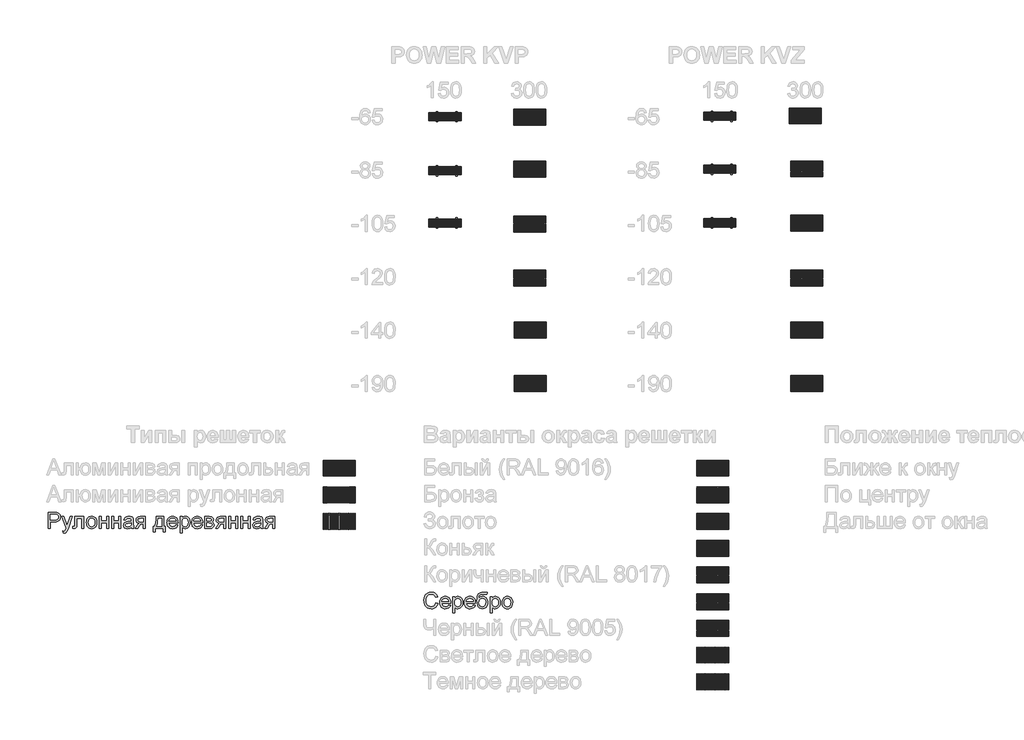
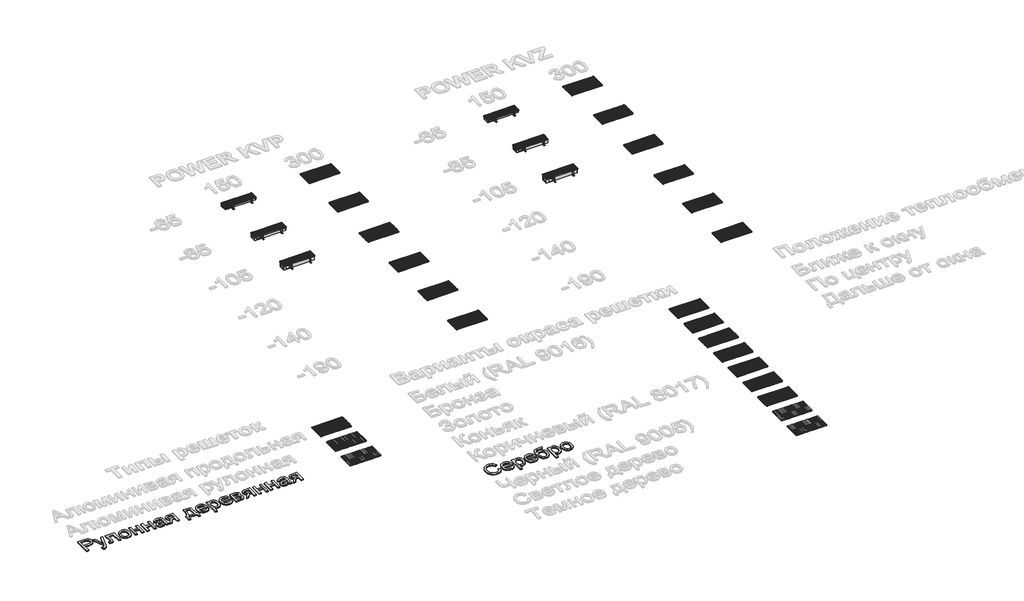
# One storey, part 1 of 10: 38 proxies.
"""IFC4 building model written with IfcOpenShell, lengths in millimetres."""

from ifc_helpers import new_model, si_unit, origin, origin_with_axes, place, context, project, spatial, polyline, outline, extrude, transform, mapped, element, save
from components import mechanical_equipment_09c1ba0b, mechanical_equipment_2d79d91e, mechanical_equipment_2ccabaea, mechanical_equipment_f10bf6e6, mechanical_equipment_841a4795, mechanical_equipment_14a43337, mechanical_equipment_002f7a25, kvp_150_65_a3dba4b2, kvp_150_85_47bef37a, kvz_150_65_052aeace, kvz_150_85_427afdff

model = new_model("IFC4")

# Units and contexts
model_context = context("Model", 3, world=origin())
ifc_project = project(units=[si_unit("LENGTHUNIT", "METRE", prefix="MILLI")], contexts=[model_context])

# Site, building, storey
site = spatial("IfcSite", under=ifc_project)
building = spatial("IfcBuilding", under=site)
storey = spatial("IfcBuildingStorey", under=building, Name="Уровень 1", Elevation=0.0)

# Proxies
placement = place(None, origin())
mechanical_equipment_shape = mechanical_equipment_09c1ba0b(model_context)
element("IfcBuildingElementProxy", 1, Name="TECHNO_Конвектор встраиваемый_Power_KVZ_150_65-85-105 : KVZ 150-105", ObjectType="TECHNO_Конвектор встраиваемый_Power_KVZ_150_65-85-105 : KVZ 150-105", at=placement, inside=storey, context=model_context, shape_type="MappedRepresentation", body=[
    mapped(mechanical_equipment_shape, transform((12325.1930795, -13794.0229763, 0.0), x_axis=(1.0, 0.0, 0.0), y_axis=(0.0, 1.0, 0.0), z_axis=(0.0, 0.0, 1.0))),
])
mechanical_equipment_2_shape = mechanical_equipment_2d79d91e(model_context)
element("IfcBuildingElementProxy", 2, Name="♦ : РАП_Алюминиевая продольная/ Белый RAL 9016", ObjectType="♦ : РАП_Алюминиевая продольная/ Белый RAL 9016", at=placement, inside=storey, context=model_context, shape_type="MappedRepresentation", body=[
    mapped(mechanical_equipment_2_shape, transform((7184.7875436, -11807.0954445, 0.0), x_axis=(1.0, 0.0, 0.0), y_axis=(0.0, 1.0, 0.0), z_axis=(0.0, 0.0, 1.0))),
])
element("IfcBuildingElementProxy", 3, Name="♦ : РАП_Алюминиевая продольная/ Белый RAL 9016", ObjectType="♦ : РАП_Алюминиевая продольная/ Белый RAL 9016", at=placement, inside=storey, context=model_context, shape_type="MappedRepresentation", body=[
    mapped(mechanical_equipment_2_shape, transform((7184.7875436, -12820.0590808, 0.0), x_axis=(1.0, 0.0, 0.0), y_axis=(0.0, 1.0, 0.0), z_axis=(0.0, 0.0, 1.0))),
])
element("IfcBuildingElementProxy", 4, Name="♦ : РАП_Алюминиевая продольная/ Белый RAL 9016", ObjectType="♦ : РАП_Алюминиевая продольная/ Белый RAL 9016", at=placement, inside=storey, context=model_context, shape_type="MappedRepresentation", body=[
    mapped(mechanical_equipment_2_shape, transform((7184.7875436, -13794.1318081, 0.0), x_axis=(1.0, 0.0, 0.0), y_axis=(0.0, 1.0, 0.0), z_axis=(0.0, 0.0, 1.0))),
])
element("IfcBuildingElementProxy", 5, Name="♦ : РАП_Алюминиевая продольная/ Белый RAL 9016", ObjectType="♦ : РАП_Алюминиевая продольная/ Белый RAL 9016", at=placement, inside=storey, context=model_context, shape_type="MappedRepresentation", body=[
    mapped(mechanical_equipment_2_shape, transform((12325.1930795, -11799.0229763, 0.0), x_axis=(1.0, 0.0, 0.0), y_axis=(0.0, 1.0, 0.0), z_axis=(0.0, 0.0, 1.0))),
])
element("IfcBuildingElementProxy", 6, Name="♦ : РАП_Алюминиевая продольная/ Белый RAL 9016", ObjectType="♦ : РАП_Алюминиевая продольная/ Белый RAL 9016", at=placement, inside=storey, context=model_context, shape_type="MappedRepresentation", body=[
    mapped(mechanical_equipment_2_shape, transform((12325.1930795, -12790.2794551, 0.0), x_axis=(1.0, 0.0, 0.0), y_axis=(0.0, 1.0, 0.0), z_axis=(0.0, 0.0, 1.0))),
])
element("IfcBuildingElementProxy", 7, Name="♦ : РАП_Алюминиевая продольная/ Белый RAL 9016", ObjectType="♦ : РАП_Алюминиевая продольная/ Белый RAL 9016", at=placement, inside=storey, context=model_context, shape_type="MappedRepresentation", body=[
    mapped(mechanical_equipment_2_shape, transform((12325.1930795, -13794.0229763, 0.0), x_axis=(1.0, 0.0, 0.0), y_axis=(0.0, 1.0, 0.0), z_axis=(0.0, 0.0, 1.0))),
])
mechanical_equipment_3_shape = mechanical_equipment_2ccabaea(model_context)
element("IfcBuildingElementProxy", 8, Name="♦ : РАП_Алюминиевая продольная/ Белый RAL 9016", ObjectType="♦ : РАП_Алюминиевая продольная/ Белый RAL 9016", at=placement, inside=storey, context=model_context, shape_type="MappedRepresentation", body=[
    mapped(mechanical_equipment_3_shape, transform((8773.8485084, -11812.8052929, 0.0), x_axis=(1.0, 0.0, 0.0), y_axis=(0.0, 1.0, 0.0), z_axis=(0.0, 0.0, 1.0))),
])
element("IfcBuildingElementProxy", 9, Name="♦ : РАП_Алюминиевая продольная/ Белый RAL 9016", ObjectType="♦ : РАП_Алюминиевая продольная/ Белый RAL 9016", at=placement, inside=storey, context=model_context, shape_type="MappedRepresentation", body=[
    mapped(mechanical_equipment_3_shape, transform((13923.129382, -11792.5411582, 0.0), x_axis=(1.0, 0.0, 0.0), y_axis=(0.0, 1.0, 0.0), z_axis=(0.0, 0.0, 1.0))),
])
element("IfcBuildingElementProxy", 10, Name="♦ : РАП_Алюминиевая продольная/ Белый RAL 9016", ObjectType="♦ : РАП_Алюминиевая продольная/ Белый RAL 9016", at=placement, inside=storey, context=model_context, shape_type="MappedRepresentation", body=[
    mapped(mechanical_equipment_3_shape, transform((8776.1530838, -15803.1136263, 0.0), x_axis=(1.0, 0.0, 0.0), y_axis=(0.0, 1.0, 0.0), z_axis=(0.0, 0.0, 1.0))),
])
element("IfcBuildingElementProxy", 11, Name="♦ : РАП_Алюминиевая продольная/ Белый RAL 9016", ObjectType="♦ : РАП_Алюминиевая продольная/ Белый RAL 9016", at=placement, inside=storey, context=model_context, shape_type="MappedRepresentation", body=[
    mapped(mechanical_equipment_3_shape, transform((8776.1530838, -16803.1136263, 0.0), x_axis=(1.0, 0.0, 0.0), y_axis=(0.0, 1.0, 0.0), z_axis=(0.0, 0.0, 1.0))),
])
element("IfcBuildingElementProxy", 12, Name="♦ : РАП_Алюминиевая продольная/ Белый RAL 9016", ObjectType="♦ : РАП_Алюминиевая продольная/ Белый RAL 9016", at=placement, inside=storey, context=model_context, shape_type="MappedRepresentation", body=[
    mapped(mechanical_equipment_3_shape, transform((13951.2341066, -15803.1136263, 0.0), x_axis=(1.0, 0.0, 0.0), y_axis=(0.0, 1.0, 0.0), z_axis=(0.0, 0.0, 1.0))),
])
element("IfcBuildingElementProxy", 13, Name="♦ : РАП_Алюминиевая продольная/ Белый RAL 9016", ObjectType="♦ : РАП_Алюминиевая продольная/ Белый RAL 9016", at=placement, inside=storey, context=model_context, shape_type="MappedRepresentation", body=[
    mapped(mechanical_equipment_3_shape, transform((13951.2341066, -16803.0047945, 0.0), x_axis=(1.0, 0.0, 0.0), y_axis=(0.0, 1.0, 0.0), z_axis=(0.0, 0.0, 1.0))),
])
mechanical_equipment_4_shape = mechanical_equipment_f10bf6e6(model_context)
element("IfcBuildingElementProxy", 14, Name="♦ : РРА_Рулонная алюминиевая/ Белый RAL 9016", ObjectType="♦ : РРА_Рулонная алюминиевая/ Белый RAL 9016", at=placement, inside=storey, context=model_context, shape_type="MappedRepresentation", body=[
    mapped(mechanical_equipment_4_shape, transform((5205.577441, -18886.8127464, 0.0), x_axis=(1.0, 0.0, 0.0), y_axis=(0.0, 1.0, 0.0), z_axis=(0.0, 0.0, 1.0))),
])
mechanical_equipment_5_shape = mechanical_equipment_841a4795(model_context)
element("IfcBuildingElementProxy", 15, Name="♦ : РРД_Рулонная деревянная/ Светлое дерево", ObjectType="♦ : РРД_Рулонная деревянная/ Светлое дерево", at=placement, inside=storey, context=model_context, shape_type="MappedRepresentation", body=[
    mapped(mechanical_equipment_5_shape, transform((5205.577441, -19386.8127464, 0.0), x_axis=(1.0, 0.0, 0.0), y_axis=(0.0, 1.0, 0.0), z_axis=(0.0, 0.0, 1.0))),
])
element("IfcBuildingElementProxy", 16, Name="♦ : РРД_Рулонная деревянная/ Светлое дерево", ObjectType="♦ : РРД_Рулонная деревянная/ Светлое дерево", at=placement, inside=storey, context=model_context, shape_type="MappedRepresentation", body=[
    mapped(mechanical_equipment_5_shape, transform((12196.577441, -21886.8127464, 0.0), x_axis=(1.0, 0.0, 0.0), y_axis=(0.0, 1.0, 0.0), z_axis=(0.0, 0.0, 1.0))),
])
mechanical_equipment_6_shape = mechanical_equipment_14a43337(model_context)
element("IfcBuildingElementProxy", 17, Name="♦ : РАП_Алюминиевая продольная/ Бронза", ObjectType="♦ : РАП_Алюминиевая продольная/ Бронза", at=placement, inside=storey, context=model_context, shape_type="MappedRepresentation", body=[
    mapped(mechanical_equipment_6_shape, transform((12196.577441, -18886.8127464, 0.0), x_axis=(1.0, 0.0, 0.0), y_axis=(0.0, 1.0, 0.0), z_axis=(0.0, 0.0, 1.0))),
])
element("IfcBuildingElementProxy", 18, Name="♦ : РАП_Алюминиевая продольная/ Золото", ObjectType="♦ : РАП_Алюминиевая продольная/ Золото", at=placement, inside=storey, context=model_context, shape_type="MappedRepresentation", body=[
    mapped(mechanical_equipment_6_shape, transform((12196.577441, -19386.8127464, 0.0), x_axis=(1.0, 0.0, 0.0), y_axis=(0.0, 1.0, 0.0), z_axis=(0.0, 0.0, 1.0))),
])
element("IfcBuildingElementProxy", 19, Name="♦ : РАП_Алюминиевая продольная/ Коньяк", ObjectType="♦ : РАП_Алюминиевая продольная/ Коньяк", at=placement, inside=storey, context=model_context, shape_type="MappedRepresentation", body=[
    mapped(mechanical_equipment_6_shape, transform((12196.577441, -19886.8127464, 0.0), x_axis=(1.0, 0.0, 0.0), y_axis=(0.0, 1.0, 0.0), z_axis=(0.0, 0.0, 1.0))),
])
element("IfcBuildingElementProxy", 20, Name="♦ : РАП_Алюминиевая продольная/ Коричневый RAL 8017", ObjectType="♦ : РАП_Алюминиевая продольная/ Коричневый RAL 8017", at=placement, inside=storey, context=model_context, shape_type="MappedRepresentation", body=[
    mapped(mechanical_equipment_6_shape, transform((12196.577441, -20386.8127464, 0.0), x_axis=(1.0, 0.0, 0.0), y_axis=(0.0, 1.0, 0.0), z_axis=(0.0, 0.0, 1.0))),
])
element("IfcBuildingElementProxy", 21, Name="♦ : РАП_Алюминиевая продольная/ Серебро", ObjectType="♦ : РАП_Алюминиевая продольная/ Серебро", at=placement, inside=storey, context=model_context, shape_type="MappedRepresentation", body=[
    mapped(mechanical_equipment_6_shape, transform((12196.577441, -20886.8127464, 0.0), x_axis=(1.0, 0.0, 0.0), y_axis=(0.0, 1.0, 0.0), z_axis=(0.0, 0.0, 1.0))),
])
element("IfcBuildingElementProxy", 22, Name="♦ : РАП_Алюминиевая продольная/ Белый RAL 9016", ObjectType="♦ : РАП_Алюминиевая продольная/ Белый RAL 9016", at=placement, inside=storey, context=model_context, shape_type="MappedRepresentation", body=[
    mapped(mechanical_equipment_6_shape, transform((8773.8485084, -12785.9836263, 0.0), x_axis=(1.0, 0.0, 0.0), y_axis=(0.0, 1.0, 0.0), z_axis=(0.0, 0.0, 1.0))),
])
element("IfcBuildingElementProxy", 23, Name="♦ : РАП_Алюминиевая продольная/ Белый RAL 9016", ObjectType="♦ : РАП_Алюминиевая продольная/ Белый RAL 9016", at=placement, inside=storey, context=model_context, shape_type="MappedRepresentation", body=[
    mapped(mechanical_equipment_6_shape, transform((8773.8485084, -13815.2436263, 0.0), x_axis=(1.0, 0.0, 0.0), y_axis=(0.0, 1.0, 0.0), z_axis=(0.0, 0.0, 1.0))),
])
element("IfcBuildingElementProxy", 24, Name="♦ : РАП_Алюминиевая продольная/ Белый RAL 9016", ObjectType="♦ : РАП_Алюминиевая продольная/ Белый RAL 9016", at=placement, inside=storey, context=model_context, shape_type="MappedRepresentation", body=[
    mapped(mechanical_equipment_6_shape, transform((8773.8485084, -14829.8736263, 0.0), x_axis=(1.0, 0.0, 0.0), y_axis=(0.0, 1.0, 0.0), z_axis=(0.0, 0.0, 1.0))),
])
element("IfcBuildingElementProxy", 25, Name="♦ : РАП_Алюминиевая продольная/ Белый RAL 9016", ObjectType="♦ : РАП_Алюминиевая продольная/ Белый RAL 9016", at=placement, inside=storey, context=model_context, shape_type="MappedRepresentation", body=[
    mapped(mechanical_equipment_6_shape, transform((5205.577441, -18386.8127464, 0.0), x_axis=(1.0, 0.0, 0.0), y_axis=(0.0, 1.0, 0.0), z_axis=(0.0, 0.0, 1.0))),
])
element("IfcBuildingElementProxy", 26, Name="♦ : РАП_Алюминиевая продольная/ Белый RAL 9016", ObjectType="♦ : РАП_Алюминиевая продольная/ Белый RAL 9016", at=placement, inside=storey, context=model_context, shape_type="MappedRepresentation", body=[
    mapped(mechanical_equipment_6_shape, transform((12196.577441, -18386.8127464, 0.0), x_axis=(1.0, 0.0, 0.0), y_axis=(0.0, 1.0, 0.0), z_axis=(0.0, 0.0, 1.0))),
])
element("IfcBuildingElementProxy", 27, Name="♦ : РАП_Алюминиевая продольная/ Белый RAL 9016", ObjectType="♦ : РАП_Алюминиевая продольная/ Белый RAL 9016", at=placement, inside=storey, context=model_context, shape_type="MappedRepresentation", body=[
    mapped(mechanical_equipment_6_shape, transform((13951.2341066, -12783.7976369, 0.0), x_axis=(1.0, 0.0, 0.0), y_axis=(0.0, 1.0, 0.0), z_axis=(0.0, 0.0, 1.0))),
])
element("IfcBuildingElementProxy", 28, Name="♦ : РАП_Алюминиевая продольная/ Белый RAL 9016", ObjectType="♦ : РАП_Алюминиевая продольная/ Белый RAL 9016", at=placement, inside=storey, context=model_context, shape_type="MappedRepresentation", body=[
    mapped(mechanical_equipment_6_shape, transform((13951.2341066, -13800.5047945, 0.0), x_axis=(1.0, 0.0, 0.0), y_axis=(0.0, 1.0, 0.0), z_axis=(0.0, 0.0, 1.0))),
])
element("IfcBuildingElementProxy", 29, Name="♦ : РАП_Алюминиевая продольная/ Белый RAL 9016", ObjectType="♦ : РАП_Алюминиевая продольная/ Белый RAL 9016", at=placement, inside=storey, context=model_context, shape_type="MappedRepresentation", body=[
    mapped(mechanical_equipment_6_shape, transform((13951.2341066, -14829.7647945, 0.0), x_axis=(1.0, 0.0, 0.0), y_axis=(0.0, 1.0, 0.0), z_axis=(0.0, 0.0, 1.0))),
])
element("IfcBuildingElementProxy", 30, Name="♦ : РАП_Алюминиевая продольная/ Черный RAL 9005", ObjectType="♦ : РАП_Алюминиевая продольная/ Черный RAL 9005", at=placement, inside=storey, context=model_context, shape_type="MappedRepresentation", body=[
    mapped(mechanical_equipment_6_shape, transform((12196.577441, -21386.8127464, 0.0), x_axis=(1.0, 0.0, 0.0), y_axis=(0.0, 1.0, 0.0), z_axis=(0.0, 0.0, 1.0))),
])
element("IfcBuildingElementProxy", 31, Name="♦ : РРД_Рулонная деревянная/ Темное дерево", ObjectType="♦ : РРД_Рулонная деревянная/ Темное дерево", at=placement, inside=storey, context=model_context, shape_type="MappedRepresentation", body=[
    mapped(mechanical_equipment_5_shape, transform((12196.577441, -22386.8127464, 0.0), x_axis=(1.0, 0.0, 0.0), y_axis=(0.0, 1.0, 0.0), z_axis=(0.0, 0.0, 1.0))),
])
mechanical_equipment_7_shape = mechanical_equipment_002f7a25(model_context)
element("IfcBuildingElementProxy", 32, Name="TECHNO_Конвектор встраиваемый_Power_KVP_150_65-85-105 : KVP 150-105", ObjectType="TECHNO_Конвектор встраиваемый_Power_KVP_150_65-85-105 : KVP 150-105", at=placement, inside=storey, context=model_context, shape_type="MappedRepresentation", body=[
    mapped(mechanical_equipment_7_shape, transform((7184.7875436, -13794.1318081, 0.0), x_axis=(1.0, 0.0, 0.0), y_axis=(0.0, 1.0, 0.0), z_axis=(0.0, 0.0, 1.0))),
])
element("IfcBuildingElementProxy", 33, Name="300", ObjectType="300", at=placement, inside=storey, context=model_context, shape_type="SweptSolid", body=[
    extrude(outline(polyline([(64.1116067, -19515.1127464), (64.1116067, -19213.7438159), (175.8005805, -19213.7438159), (220.8293367, -19216.6132955), (240.9064966, -19221.9751756), (257.4335952, -19230.7031759), (270.7417264, -19243.1927696), (281.1619839, -19259.8394299), (287.8942244, -19279.4751314), (290.1383046, -19300.9318488), (288.6230906, -19319.4317146), (284.0774487, -19336.4508554), (276.5013789, -19351.9892712), (265.8948811, -19366.0469619), (251.3336519, -19377.6996241), (231.8933877, -19386.0229543), (207.5740885, -19391.0169524), (178.3757544, -19392.6816184), (101.782723, -19392.6816184), (101.782723, -19515.1127464), (64.1116067, -19515.1127464)]), holes=[polyline([(101.782723, -19355.0105021), (180.5830464, -19355.0105021), (213.9867316, -19351.5524113), (236.0596513, -19341.1781391), (248.365304, -19324.5314788), (252.4671883, -19302.256224), (250.0483642, -19285.3336522), (242.7918918, -19271.0598308), (231.5990821, -19260.3176765), (217.3712459, -19253.9901062), (179.7001296, -19251.4149322), (101.782723, -19251.4149322), (101.782723, -19355.0105021)])]), origin_with_axes(), (0.0, 0.0, 1.0), 20.0),
    extrude(outline(polyline([(337.2272, -19599.8727581), (332.5183104, -19563.5995933), (351.6481742, -19566.9105313), (369.5272391, -19562.7534648), (380.4901226, -19551.1651819), (390.7908185, -19523.4268795), (393.7338744, -19514.303406), (313.6827523, -19293.7949381), (353.4140077, -19293.7949381), (395.86759, -19416.6675245), (410.6564462, -19465.816559), (425.4453024, -19422.4064836), (469.076107, -19293.7949381), (508.5130569, -19293.7949381), (431.4785671, -19520.4102471), (411.4657866, -19569.5592817), (401.220273, -19585.2494488), (389.6135961, -19596.1203617), (376.1307209, -19602.4663261), (360.2566129, -19604.5816476), (337.2272, -19599.8727581)])), origin_with_axes(), (0.0, 0.0, 1.0), 20.0),
    extrude(outline(polyline([(558.5450083, -19293.7949381), (728.0650316, -19293.7949381), (728.0650316, -19514.8920172), (690.3939153, -19514.8920172), (690.3939153, -19331.4660544), (596.2161246, -19331.4660544), (596.2161246, -19437.048187), (593.6777388, -19485.7557632), (588.922864, -19496.783026), (579.7350112, -19506.3203667), (565.7922836, -19512.9146515), (546.7727844, -19515.1127464), (516.1650024, -19513.19976), (516.1650024, -19477.4416301), (533.0139978, -19477.4416301), (550.0469342, -19475.1239735), (556.8527511, -19467.7663336), (558.5450083, -19434.9144714), (558.5450083, -19293.7949381)])), origin_with_axes(), (0.0, 0.0, 1.0), 20.0),
    extrude(outline(polyline([(775.153927, -19404.4538422), (777.1910736, -19375.7912363), (783.3025132, -19351.0925588), (793.488246, -19330.3578099), (807.7482718, -19313.5869894), (822.1048667, -19302.8678278), (837.9513836, -19295.2112838), (855.2878226, -19290.6173573), (874.1141837, -19289.0860485), (894.8972172, -19290.9507504), (913.6890894, -19296.544856), (930.4898002, -19305.8683653), (945.2993498, -19318.9212784), (957.3865726, -19335.2621367), (966.0203032, -19354.449482), (971.2005415, -19376.4833143), (972.9272876, -19401.3636335), (969.8738671, -19439.4210259), (960.7136054, -19468.391733), (945.713217, -19490.0875737), (925.1394165, -19506.3203667), (900.7028549, -19516.4463186), (874.1141837, -19519.8216359), (853.0276476, -19517.9638318), (834.0610315, -19512.3904196), (817.2143354, -19503.1013992), (802.4875593, -19490.0967707), (790.5290952, -19473.5972632), (781.9873351, -19453.823606), (776.862279, -19430.775799), (775.153927, -19404.4538422)]), holes=[polyline([(812.8250433, -19404.3802658), (817.184445, -19438.4737297), (830.2626499, -19462.7631385), (849.9443366, -19477.3036743), (874.1141837, -19482.1505196), (898.1736662, -19477.2760832), (917.8185647, -19462.6527739), (930.8967697, -19438.0414684), (935.2561713, -19403.2030434), (930.8691785, -19370.1028609), (917.7082001, -19346.144546), (898.0357105, -19331.6040101), (874.1141837, -19326.7571648), (849.9443366, -19331.585616), (830.2626499, -19346.0709696), (817.184445, -19370.305196), (812.8250433, -19404.3802658)])]), origin_with_axes(), (0.0, 0.0, 1.0), 20.0),
    extrude(outline(polyline([(1015.3072935, -19293.7949381), (1052.9784098, -19293.7949381), (1052.9784098, -19378.5549498), (1151.8650901, -19378.5549498), (1151.8650901, -19293.7949381), (1189.5362064, -19293.7949381), (1189.5362064, -19515.1127464), (1151.8650901, -19515.1127464), (1151.8650901, -19416.2260661), (1052.9784098, -19416.2260661), (1052.9784098, -19515.1127464), (1015.3072935, -19515.1127464), (1015.3072935, -19293.7949381)])), origin_with_axes(), (0.0, 0.0, 1.0), 20.0),
    extrude(outline(polyline([(1246.0428808, -19293.7949381), (1283.7139971, -19293.7949381), (1283.7139971, -19378.5549498), (1382.6006775, -19378.5549498), (1382.6006775, -19293.7949381), (1420.2717938, -19293.7949381), (1420.2717938, -19515.1127464), (1382.6006775, -19515.1127464), (1382.6006775, -19416.2260661), (1283.7139971, -19416.2260661), (1283.7139971, -19515.1127464), (1246.0428808, -19515.1127464), (1246.0428808, -19293.7949381)])), origin_with_axes(), (0.0, 0.0, 1.0), 20.0),
    extrude(outline(polyline([(1618.0451544, -19486.8594092), (1600.0465278, -19502.2920588), (1581.5144722, -19512.3904196), (1562.0259236, -19517.9638318), (1541.1578174, -19519.8216359), (1509.6763156, -19515.3518697), (1486.4537647, -19501.942571), (1472.133958, -19481.5803025), (1467.3606891, -19456.2516272), (1469.1633109, -19440.6350365), (1474.5711762, -19426.4531855), (1482.9129005, -19414.3130797), (1493.517099, -19404.8217242), (1519.8942381, -19392.4608892), (1552.4885828, -19386.7955065), (1591.0058277, -19380.8358181), (1617.8244252, -19373.8460602), (1618.0451544, -19365.4583507), (1615.4515863, -19348.6461436), (1607.6708821, -19337.6464719), (1590.2700637, -19329.4794916), (1566.0266402, -19326.7571648), (1543.5858385, -19328.5689837), (1527.9140655, -19334.0044402), (1517.2270936, -19344.0568157), (1509.740695, -19359.7193916), (1472.0695787, -19355.0105021), (1478.6086811, -19334.4091103), (1488.3667511, -19318.2223026), (1502.2542964, -19305.8430734), (1521.181825, -19296.6644176), (1544.3307996, -19290.9806408), (1570.8826826, -19289.0860485), (1596.3493137, -19290.7599116), (1616.5368382, -19295.7815009), (1631.7579557, -19303.3322788), (1642.325366, -19312.593708), (1649.3335181, -19324.0440351), (1653.8768607, -19338.1615067), (1655.7162707, -19371.1237335), (1655.7162707, -19417.9918997), (1657.629257, -19483.4381066), (1665.1340497, -19515.1127464), (1627.4629334, -19515.1127464), (1618.0451544, -19486.8594092)]), holes=[polyline([(1618.0451544, -19411.5171765), (1557.2710488, -19423.0686712), (1524.860645, -19429.1755123), (1510.1821534, -19439.1083262), (1505.0318054, -19453.6028768), (1507.8369057, -19464.8048835), (1516.2522063, -19473.9835393), (1530.0937664, -19480.1087745), (1549.1776449, -19482.1505196), (1569.4111546, -19479.8972424), (1587.2902196, -19473.1374107), (1601.7847702, -19463.1770057), (1611.8647368, -19451.3220084), (1616.3345031, -19439.1083262), (1617.8244252, -19422.1857544), (1618.0451544, -19411.5171765)])]), origin_with_axes(), (0.0, 0.0, 1.0), 20.0),
    extrude(outline(polyline([(1877.034079, -19293.7949381), (1877.034079, -19515.1127464), (1839.3629627, -19515.1127464), (1839.3629627, -19430.3527347), (1818.8351473, -19430.3527347), (1790.8761157, -19435.1352006), (1779.7108971, -19445.5646552), (1764.6093412, -19467.288087), (1734.5901704, -19515.1127464), (1691.0329422, -19515.1127464), (1728.8512113, -19454.6329464), (1745.5530539, -19432.9279087), (1760.9305213, -19423.2894004), (1735.1787816, -19415.3983316), (1717.0789875, -19400.4071403), (1706.3736214, -19380.4679361), (1702.8051661, -19357.7328288), (1707.6796025, -19331.944301), (1722.3029118, -19311.5268502), (1746.1600592, -19298.2279161), (1778.7360099, -19293.7949381), (1877.034079, -19293.7949381)]), holes=[polyline([(1839.3629627, -19331.4660544), (1789.6988933, -19331.4660544), (1764.0483212, -19333.6457552), (1749.4893912, -19340.1848577), (1742.7295596, -19349.648622), (1740.4762824, -19360.6023084), (1743.7964174, -19374.9589033), (1753.7568224, -19384.9193083), (1772.1601192, -19390.7410409), (1800.8089296, -19392.6816184), (1839.3629627, -19392.6816184), (1839.3629627, -19331.4660544)])]), origin_with_axes(), (0.0, 0.0, 1.0), 20.0),
    extrude(outline(polyline([(2084.2252187, -19293.7949381), (2225.4919048, -19293.7949381), (2225.4919048, -19477.4416301), (2253.745242, -19477.4416301), (2253.745242, -19576.3283104), (2216.0741257, -19576.3283104), (2216.0741257, -19515.1127464), (2060.680771, -19515.1127464), (2060.680771, -19576.3283104), (2023.0096547, -19576.3283104), (2023.0096547, -19477.4416301), (2046.5541023, -19477.4416301), (2063.6698122, -19446.5119513), (2075.6535682, -19405.5942764), (2082.5053703, -19354.6886053), (2084.2252187, -19293.7949381)]), holes=[polyline([(2117.1874454, -19331.4660544), (2114.0972367, -19377.5892595), (2108.3582775, -19417.2929239), (2099.970568, -19450.5770474), (2088.9341082, -19477.4416301), (2187.8207885, -19477.4416301), (2187.8207885, -19331.4660544), (2117.1874454, -19331.4660544)])]), origin_with_axes(), (0.0, 0.0, 1.0), 20.0),
    extrude(outline(polyline([(2451.0771442, -19449.1882928), (2488.0124966, -19453.8971824), (2474.7043654, -19481.7274553), (2453.4683772, -19502.5311821), (2424.7827786, -19515.4990225), (2389.1258163, -19519.8216359), (2365.751514, -19517.9569341), (2344.9247945, -19512.3628285), (2326.6456579, -19503.0393192), (2310.9141041, -19489.9864061), (2298.263562, -19473.5673728), (2289.2274605, -19454.1455027), (2283.8057996, -19431.7207959), (2281.9985793, -19406.2932522), (2283.8241937, -19380.0034851), (2289.3010369, -19356.831518), (2298.4291089, -19336.7773507), (2311.2084097, -19319.8409833), (2326.8985768, -19306.3856994), (2344.7592476, -19296.7747822), (2364.7904223, -19291.008232), (2386.9921007, -19289.0860485), (2408.4787085, -19291.0036334), (2427.9097756, -19296.7563881), (2445.2853021, -19306.3443126), (2460.6052879, -19319.7674069), (2473.1109765, -19336.6669861), (2482.0436112, -19356.6843652), (2487.403192, -19379.8195441), (2489.1897189, -19406.072523), (2488.9689897, -19416.2260661), (2319.6696956, -19416.2260661), (2326.1904039, -19444.424221), (2341.3379451, -19465.1543714), (2363.1993326, -19477.9014826), (2389.8615802, -19482.1505196), (2409.911149, -19480.1823509), (2426.7969326, -19474.2778449), (2440.518931, -19464.0691195), (2451.0771442, -19449.1882928)]), holes=[polyline([(2319.6696956, -19378.5549498), (2451.5186026, -19378.5549498), (2446.423437, -19358.6525338), (2436.4354408, -19344.4155006), (2414.4728857, -19331.1717488), (2386.8449479, -19326.7571648), (2361.4518932, -19330.279635), (2340.4550283, -19340.8470453), (2325.8593101, -19357.3189616), (2319.6696956, -19378.5549498)])]), origin_with_axes(), (0.0, 0.0, 1.0), 20.0),
    extrude(outline(polyline([(2526.8608353, -19599.8727581), (2526.8608353, -19293.7949381), (2564.5319516, -19293.7949381), (2564.5319516, -19330.7302904), (2576.8192102, -19312.5109346), (2590.5779968, -19299.497109), (2606.6176518, -19291.6888137), (2625.7475156, -19289.0860485), (2651.2233437, -19292.7280803), (2673.4985985, -19303.6541756), (2691.6351809, -19321.2021467), (2704.6949917, -19344.7098062), (2712.5860605, -19372.4665028), (2715.2164168, -19402.7615851), (2712.2457697, -19434.9788508), (2703.3338283, -19463.7932081), (2688.7657013, -19487.7423259), (2668.8264972, -19505.3638735), (2645.6039462, -19516.2071953), (2621.1857788, -19519.8216359), (2603.8677339, -19517.4028118), (2588.407493, -19510.1463394), (2575.1729383, -19499.192653), (2564.5319516, -19485.6821868), (2564.5319516, -19599.8727581), (2526.8608353, -19599.8727581)]), holes=[polyline([(2564.5319516, -19406.2196758), (2568.6062447, -19439.991243), (2580.8291239, -19463.6092671), (2598.8645388, -19477.5152065), (2620.3764384, -19482.1505196), (2642.237826, -19477.3496596), (2660.7330933, -19462.9470795), (2673.3422487, -19438.4645327), (2677.5453005, -19403.4237726), (2673.4434162, -19369.8361465), (2661.1377635, -19345.8870286), (2643.1299398, -19331.5396308), (2621.9215428, -19326.7571648), (2600.6303723, -19331.8431334), (2581.9327699, -19347.1010392), (2568.8821561, -19372.0526355), (2564.5319516, -19406.2196758)])]), origin_with_axes(), (0.0, 0.0, 1.0), 20.0),
    extrude(outline(polyline([(2912.548319, -19449.1882928), (2949.4836713, -19453.8971824), (2936.1755401, -19481.7274553), (2914.939552, -19502.5311821), (2886.2539534, -19515.4990225), (2850.596991, -19519.8216359), (2827.2226887, -19517.9569341), (2806.3959693, -19512.3628285), (2788.1168327, -19503.0393192), (2772.3852788, -19489.9864061), (2759.7347367, -19473.5673728), (2750.6986352, -19454.1455027), (2745.2769743, -19431.7207959), (2743.469754, -19406.2932522), (2745.2953684, -19380.0034851), (2750.7722116, -19356.831518), (2759.9002836, -19336.7773507), (2772.6795844, -19319.8409833), (2788.3697515, -19306.3856994), (2806.2304224, -19296.7747822), (2826.261597, -19291.008232), (2848.4632754, -19289.0860485), (2869.9498832, -19291.0036334), (2889.3809503, -19296.7563881), (2906.7564768, -19306.3443126), (2922.0764627, -19319.7674069), (2934.5821512, -19336.6669861), (2943.5147859, -19356.6843652), (2948.8743668, -19379.8195441), (2950.6608937, -19406.072523), (2950.4401645, -19416.2260661), (2781.1408703, -19416.2260661), (2787.6615787, -19444.424221), (2802.8091198, -19465.1543714), (2824.6705074, -19477.9014826), (2851.332755, -19482.1505196), (2871.3823237, -19480.1823509), (2888.2681073, -19474.2778449), (2901.9901057, -19464.0691195), (2912.548319, -19449.1882928)]), holes=[polyline([(2781.1408703, -19378.5549498), (2912.9897774, -19378.5549498), (2907.8946118, -19358.6525338), (2897.9066156, -19344.4155006), (2875.9440605, -19331.1717488), (2848.3161226, -19326.7571648), (2822.9230679, -19330.279635), (2801.926203, -19340.8470453), (2787.3304849, -19357.3189616), (2781.1408703, -19378.5549498)])]), origin_with_axes(), (0.0, 0.0, 1.0), 20.0),
    extrude(outline(polyline([(2988.33201, -19293.7949381), (3071.3261881, -19293.7949381), (3098.0068298, -19295.0549339), (3116.8331909, -19298.8349214), (3130.683948, -19305.9718321), (3142.4377778, -19317.3025976), (3150.4668023, -19332.0638626), (3153.1431438, -19349.4922722), (3151.5244631, -19363.5361673), (3146.6684207, -19375.648682), (3138.5566227, -19385.8849985), (3127.170675, -19394.3002992), (3141.1134026, -19402.1269886), (3152.4809562, -19414.7177499), (3160.0409312, -19431.0793016), (3162.5609229, -19450.2183624), (3156.1781703, -19478.9315522), (3141.003038, -19499.1466678), (3116.9803437, -19511.1212267), (3084.0549051, -19515.1127464), (2988.33201, -19515.1127464), (2988.33201, -19293.7949381)]), holes=[polyline([(3026.0031263, -19378.5549498), (3063.2327842, -19378.5549498), (3093.9509308, -19376.6419634), (3108.8869398, -19368.9900179), (3113.8257556, -19362.6624476), (3115.4720275, -19355.1576549), (3112.5841539, -19343.9188599), (3103.9205329, -19336.6899787), (3088.267154, -19332.7720355), (3064.4100066, -19331.4660544), (3026.0031263, -19331.4660544), (3026.0031263, -19378.5549498)]), polyline([(3026.0031263, -19477.4416301), (3072.2091049, -19477.4416301), (3097.3906275, -19475.7401758), (3113.1911592, -19470.6358132), (3121.6708392, -19461.3559898), (3124.8898066, -19447.1281537), (3123.2803229, -19437.7011775), (3118.4518717, -19428.9915713), (3111.0390495, -19422.1765573), (3101.6764527, -19418.433358), (3068.5302849, -19416.2260661), (3026.0031263, -19416.2260661), (3026.0031263, -19477.4416301)])]), origin_with_axes(), (0.0, 0.0, 1.0), 20.0),
    extrude(outline(polyline([(3379.1698417, -19293.7949381), (3379.1698417, -19515.1127464), (3341.4987254, -19515.1127464), (3341.4987254, -19430.3527347), (3320.97091, -19430.3527347), (3293.0118784, -19435.1352006), (3281.8466599, -19445.5646552), (3266.745104, -19467.288087), (3236.7259331, -19515.1127464), (3193.1687049, -19515.1127464), (3230.986974, -19454.6329464), (3247.6888166, -19432.9279087), (3263.066284, -19423.2894004), (3237.3145443, -19415.3983316), (3219.2147502, -19400.4071403), (3208.5093841, -19380.4679361), (3204.9409288, -19357.7328288), (3209.8153652, -19331.944301), (3224.4386745, -19311.5268502), (3248.2958219, -19298.2279161), (3280.8717726, -19293.7949381), (3379.1698417, -19293.7949381)]), holes=[polyline([(3341.4987254, -19331.4660544), (3291.834656, -19331.4660544), (3266.1840839, -19333.6457552), (3251.6251539, -19340.1848577), (3244.8653223, -19349.648622), (3242.6120451, -19360.6023084), (3245.9321801, -19374.9589033), (3255.8925851, -19384.9193083), (3274.2958819, -19390.7410409), (3302.9446923, -19392.6816184), (3341.4987254, -19392.6816184), (3341.4987254, -19331.4660544)])]), origin_with_axes(), (0.0, 0.0, 1.0), 20.0),
    extrude(outline(polyline([(3435.6765161, -19293.7949381), (3473.3476324, -19293.7949381), (3473.3476324, -19378.5549498), (3572.2343127, -19378.5549498), (3572.2343127, -19293.7949381), (3609.9054291, -19293.7949381), (3609.9054291, -19515.1127464), (3572.2343127, -19515.1127464), (3572.2343127, -19416.2260661), (3473.3476324, -19416.2260661), (3473.3476324, -19515.1127464), (3435.6765161, -19515.1127464), (3435.6765161, -19293.7949381)])), origin_with_axes(), (0.0, 0.0, 1.0), 20.0),
    extrude(outline(polyline([(3666.4121035, -19293.7949381), (3704.0832198, -19293.7949381), (3704.0832198, -19378.5549498), (3802.9699001, -19378.5549498), (3802.9699001, -19293.7949381), (3840.6410164, -19293.7949381), (3840.6410164, -19515.1127464), (3802.9699001, -19515.1127464), (3802.9699001, -19416.2260661), (3704.0832198, -19416.2260661), (3704.0832198, -19515.1127464), (3666.4121035, -19515.1127464), (3666.4121035, -19293.7949381)])), origin_with_axes(), (0.0, 0.0, 1.0), 20.0),
    extrude(outline(polyline([(4038.414377, -19486.8594092), (4020.4157504, -19502.2920588), (4001.8836949, -19512.3904196), (3982.3951462, -19517.9638318), (3961.52704, -19519.8216359), (3930.0455383, -19515.3518697), (3906.8229874, -19501.942571), (3892.5031807, -19481.5803025), (3887.7299118, -19456.2516272), (3889.5325336, -19440.6350365), (3894.9403989, -19426.4531855), (3903.2821232, -19414.3130797), (3913.8863217, -19404.8217242), (3940.2634607, -19392.4608892), (3972.8578055, -19386.7955065), (4011.3750504, -19380.8358181), (4038.1936478, -19373.8460602), (4038.414377, -19365.4583507), (4035.820809, -19348.6461436), (4028.0401048, -19337.6464719), (4010.6392864, -19329.4794916), (3986.3958629, -19326.7571648), (3963.9550612, -19328.5689837), (3948.2832882, -19334.0044402), (3937.5963163, -19344.0568157), (3930.1099177, -19359.7193916), (3892.4388013, -19355.0105021), (3898.9779038, -19334.4091103), (3908.7359737, -19318.2223026), (3922.6235191, -19305.8430734), (3941.5510477, -19296.6644176), (3964.7000222, -19290.9806408), (3991.2519053, -19289.0860485), (4016.7185364, -19290.7599116), (4036.9060609, -19295.7815009), (4052.1271784, -19303.3322788), (4062.6945887, -19312.593708), (4069.7027407, -19324.0440351), (4074.2460834, -19338.1615067), (4076.0854933, -19371.1237335), (4076.0854933, -19417.9918997), (4077.9984797, -19483.4381066), (4085.5032724, -19515.1127464), (4047.8321561, -19515.1127464), (4038.414377, -19486.8594092)]), holes=[polyline([(4038.414377, -19411.5171765), (3977.6402714, -19423.0686712), (3945.2298677, -19429.1755123), (3930.551376, -19439.1083262), (3925.4010281, -19453.6028768), (3928.2061283, -19464.8048835), (3936.621429, -19473.9835393), (3950.462989, -19480.1087745), (3969.5468675, -19482.1505196), (3989.7803773, -19479.8972424), (4007.6594422, -19473.1374107), (4022.1539928, -19463.1770057), (4032.2339595, -19451.3220084), (4036.7037258, -19439.1083262), (4038.1936478, -19422.1857544), (4038.414377, -19411.5171765)])]), origin_with_axes(), (0.0, 0.0, 1.0), 20.0),
    extrude(outline(polyline([(4297.4033016, -19293.7949381), (4297.4033016, -19515.1127464), (4259.7321853, -19515.1127464), (4259.7321853, -19430.3527347), (4239.20437, -19430.3527347), (4211.2453384, -19435.1352006), (4200.0801198, -19445.5646552), (4184.9785639, -19467.288087), (4154.9593931, -19515.1127464), (4111.4021649, -19515.1127464), (4149.220434, -19454.6329464), (4165.9222766, -19432.9279087), (4181.299744, -19423.2894004), (4155.5480043, -19415.3983316), (4137.4482101, -19400.4071403), (4126.7428441, -19380.4679361), (4123.1743887, -19357.7328288), (4128.0488252, -19331.944301), (4142.6721345, -19311.5268502), (4166.5292819, -19298.2279161), (4199.1052325, -19293.7949381), (4297.4033016, -19293.7949381)]), holes=[polyline([(4259.7321853, -19331.4660544), (4210.068116, -19331.4660544), (4184.4175439, -19333.6457552), (4169.8586139, -19340.1848577), (4163.0987822, -19349.648622), (4160.845505, -19360.6023084), (4164.16564, -19374.9589033), (4174.1260451, -19384.9193083), (4192.5293419, -19390.7410409), (4221.1781522, -19392.6816184), (4259.7321853, -19392.6816184), (4259.7321853, -19331.4660544)])]), origin_with_axes(), (0.0, 0.0, 1.0), 20.0),
])
element("IfcBuildingElementProxy", 34, Name="300", ObjectType="300", at=placement, inside=storey, context=model_context, shape_type="SweptSolid", body=[
    extrude(outline(polyline([(7314.0636537, -20907.9855094), (7351.73477, -20917.6975941), (7344.2805611, -20941.1247794), (7334.3523457, -20961.5951131), (7321.950124, -20979.1085954), (7307.0738958, -20993.6652261), (7290.0593535, -21005.1086554), (7271.2421895, -21013.2825335), (7250.6224036, -21018.1868603), (7228.199996, -21019.8216359), (7184.5048121, -21014.8736231), (7149.8043429, -21000.0295846), (7123.2064746, -20975.8045552), (7103.8190935, -20942.7135697), (7091.9824903, -20903.8100487), (7088.0369559, -20862.1474128), (7092.4975251, -20818.2039085), (7105.8792326, -20780.2568807), (7127.4831028, -20749.5111429), (7156.6101598, -20727.1715088), (7191.1542791, -20713.569072), (7229.0093364, -20709.0349264), (7270.3132874, -20714.9026442), (7288.2820236, -20722.2372915), (7304.4619336, -20732.5057977), (7318.586303, -20745.4368498), (7330.3884172, -20760.7591349), (7347.0258805, -20798.577404), (7309.3547642, -20807.5537247), (7296.2949533, -20780.0821367), (7278.4526766, -20761.2373815), (7255.6072047, -20750.3388774), (7227.5378084, -20746.7060427), (7195.182587, -20750.7343505), (7168.6031128, -20762.8192741), (7148.4339824, -20781.6916204), (7135.3097923, -20806.0821967), (7128.1085022, -20833.6549523), (7125.7080722, -20862.0738364), (7128.5499606, -20896.8754731), (7137.0756258, -20926.9682203), (7151.6069646, -20951.2024468), (7172.4658738, -20968.4285212), (7197.4726524, -20978.72002), (7224.4475997, -20982.1505196), (7255.8923132, -20977.4784183), (7282.0947083, -20963.4621143), (7301.8775626, -20940.2487604), (7314.0636537, -20907.9855094)])), origin_with_axes(), (0.0, 0.0, 1.0), 20.0),
    extrude(outline(polyline([(7553.7755618, -20949.1882928), (7590.7109141, -20953.8971824), (7577.4027829, -20981.7274553), (7556.1667947, -21002.5311821), (7527.4811962, -21015.4990225), (7491.8242338, -21019.8216359), (7468.4499315, -21017.9569341), (7447.6232121, -21012.3628285), (7429.3440754, -21003.0393192), (7413.6125216, -20989.9864061), (7400.9619795, -20973.5673728), (7391.925878, -20954.1455027), (7386.5042171, -20931.7207959), (7384.6969968, -20906.2932522), (7386.5226112, -20880.0034851), (7391.9994544, -20856.831518), (7401.1275264, -20836.7773507), (7413.9068272, -20819.8409833), (7429.5969943, -20806.3856994), (7447.4576652, -20796.7747822), (7467.4888398, -20791.008232), (7489.6905182, -20789.0860485), (7511.177126, -20791.0036334), (7530.6081931, -20796.7563881), (7547.9837196, -20806.3443126), (7563.3037054, -20819.7674069), (7575.809394, -20836.6669861), (7584.7420287, -20856.6843652), (7590.1016095, -20879.8195441), (7591.8881365, -20906.072523), (7591.6674073, -20916.2260661), (7422.3681131, -20916.2260661), (7428.8888215, -20944.424221), (7444.0363626, -20965.1543714), (7465.8977502, -20977.9014826), (7492.5599978, -20982.1505196), (7512.6095665, -20980.1823509), (7529.4953501, -20974.2778449), (7543.2173485, -20964.0691195), (7553.7755618, -20949.1882928)]), holes=[polyline([(7422.3681131, -20878.5549498), (7554.2170202, -20878.5549498), (7549.1218545, -20858.6525338), (7539.1338584, -20844.4155006), (7517.1713032, -20831.1717488), (7489.5433654, -20826.7571648), (7464.1503107, -20830.279635), (7443.1534458, -20840.8470453), (7428.5577277, -20857.3189616), (7422.3681131, -20878.5549498)])]), origin_with_axes(), (0.0, 0.0, 1.0), 20.0),
    extrude(outline(polyline([(7629.5592528, -21099.8727581), (7629.5592528, -20793.7949381), (7667.2303691, -20793.7949381), (7667.2303691, -20830.7302904), (7679.5176277, -20812.5109346), (7693.2764143, -20799.497109), (7709.3160693, -20791.6888137), (7728.4459331, -20789.0860485), (7753.9217612, -20792.7280803), (7776.1970161, -20803.6541756), (7794.3335984, -20821.2021467), (7807.3934092, -20844.7098062), (7815.284478, -20872.4665028), (7817.9148343, -20902.7615851), (7814.9441872, -20934.9788508), (7806.0322459, -20963.7932081), (7791.4641189, -20987.7423259), (7771.5249147, -21005.3638735), (7748.3023638, -21016.2071953), (7723.8841963, -21019.8216359), (7706.5661514, -21017.4028118), (7691.1059106, -21010.1463394), (7677.8713558, -20999.192653), (7667.2303691, -20985.6821868), (7667.2303691, -21099.8727581), (7629.5592528, -21099.8727581)]), holes=[polyline([(7667.2303691, -20906.2196758), (7671.3046622, -20939.991243), (7683.5275415, -20963.6092671), (7701.5629563, -20977.5152065), (7723.074856, -20982.1505196), (7744.9362435, -20977.3496596), (7763.4315108, -20962.9470795), (7776.0406662, -20938.4645327), (7780.243718, -20903.4237726), (7776.1418338, -20869.8361465), (7763.836181, -20845.8870286), (7745.8283574, -20831.5396308), (7724.6199603, -20826.7571648), (7703.3287899, -20831.8431334), (7684.6311875, -20847.1010392), (7671.5805737, -20872.0526355), (7667.2303691, -20906.2196758)])]), origin_with_axes(), (0.0, 0.0, 1.0), 20.0),
    extrude(outline(polyline([(8015.2467365, -20949.1882928), (8052.1820888, -20953.8971824), (8038.8739577, -20981.7274553), (8017.6379695, -21002.5311821), (7988.9523709, -21015.4990225), (7953.2954085, -21019.8216359), (7929.9211063, -21017.9569341), (7909.0943868, -21012.3628285), (7890.8152502, -21003.0393192), (7875.0836964, -20989.9864061), (7862.4331542, -20973.5673728), (7853.3970527, -20954.1455027), (7847.9753918, -20931.7207959), (7846.1681715, -20906.2932522), (7847.9937859, -20880.0034851), (7853.4706291, -20856.831518), (7862.5987011, -20836.7773507), (7875.378002, -20819.8409833), (7891.068169, -20806.3856994), (7908.9288399, -20796.7747822), (7928.9600146, -20791.008232), (7951.161693, -20789.0860485), (7972.6483007, -20791.0036334), (7992.0793679, -20796.7563881), (8009.4548944, -20806.3443126), (8024.7748802, -20819.7674069), (8037.2805688, -20836.6669861), (8046.2132035, -20856.6843652), (8051.5727843, -20879.8195441), (8053.3593112, -20906.072523), (8053.138582, -20916.2260661), (7883.8392878, -20916.2260661), (7890.3599962, -20944.424221), (7905.5075374, -20965.1543714), (7927.3689249, -20977.9014826), (7954.0311725, -20982.1505196), (7974.0807413, -20980.1823509), (7990.9665248, -20974.2778449), (8004.6885233, -20964.0691195), (8015.2467365, -20949.1882928)]), holes=[polyline([(7883.8392878, -20878.5549498), (8015.6881949, -20878.5549498), (8010.5930293, -20858.6525338), (8000.6050331, -20844.4155006), (7978.642478, -20831.1717488), (7951.0145402, -20826.7571648), (7925.6214854, -20830.279635), (7904.6246206, -20840.8470453), (7890.0289024, -20857.3189616), (7883.8392878, -20878.5549498)])]), origin_with_axes(), (0.0, 0.0, 1.0), 20.0),
    extrude(outline(polyline([(8246.4237823, -20709.0349264), (8279.3860091, -20709.0349264), (8275.8175537, -20726.9415825), (8269.6739244, -20738.4286978), (8261.1574562, -20745.2253177), (8250.4704842, -20749.0604875), (8204.338082, -20751.4149322), (8166.0323693, -20753.585436), (8142.2028131, -20760.0969473), (8127.9473857, -20771.3909246), (8118.3640598, -20787.9088262), (8112.7262682, -20809.7794108), (8110.3074441, -20837.1314371), (8125.4549852, -20816.088587), (8142.938577, -20801.0790016), (8162.7766136, -20792.0842868), (8184.9874891, -20789.0860485), (8205.5107059, -20790.9921371), (8224.1853157, -20796.7104029), (8241.0113184, -20806.2408458), (8255.9887142, -20819.5834659), (8268.2851699, -20836.1772432), (8277.0683525, -20855.4611575), (8282.3382621, -20877.4352089), (8284.0948986, -20902.0993975), (8280.6092167, -20938.0598625), (8270.152171, -20966.920205), (8254.9126593, -20989.3518097), (8237.0795796, -21006.0260611), (8214.4916251, -21016.3727422), (8184.9874891, -21019.8216359), (8150.9859957, -21015.3794608), (8125.5009705, -21002.0529356), (8106.7481858, -20981.8010317), (8092.9434139, -20956.5827209), (8084.4453398, -20918.608102), (8081.6126484, -20860.0872736), (8083.3991754, -20820.4226967), (8088.7587562, -20787.8076586), (8097.6913909, -20762.2421592), (8110.1970795, -20743.7261985), (8126.4091791, -20730.6089061), (8146.4610471, -20721.2394116), (8170.3526835, -20715.6177148), (8198.0840881, -20713.7438159), (8240.0226356, -20712.8976873), (8246.4237823, -20709.0349264)]), holes=[polyline([(8246.4237823, -20900.9221751), (8242.3402921, -20871.2800833), (8230.0898217, -20847.5424976), (8210.408135, -20831.953498), (8184.0309959, -20826.7571648), (8156.5318168, -20832.2478036), (8145.4447731, -20839.1111021), (8136.1327601, -20848.71972), (8123.4960136, -20874.3702921), (8119.2837648, -20907.3968982), (8123.937472, -20939.4118288), (8137.8985937, -20962.9102913), (8158.6839264, -20977.3404625), (8183.8102667, -20982.1505196), (8209.0653657, -20976.5863044), (8229.0597521, -20959.8936589), (8242.0827747, -20934.0223576), (8246.4237823, -20900.9221751)])]), origin_with_axes(), (0.0, 0.0, 1.0), 20.0),
    extrude(outline(polyline([(8331.183794, -21099.8727581), (8331.183794, -20793.7949381), (8368.8549103, -20793.7949381), (8368.8549103, -20830.7302904), (8381.1421689, -20812.5109346), (8394.9009555, -20799.497109), (8410.9406105, -20791.6888137), (8430.0704743, -20789.0860485), (8455.5463024, -20792.7280803), (8477.8215573, -20803.6541756), (8495.9581396, -20821.2021467), (8509.0179504, -20844.7098062), (8516.9090192, -20872.4665028), (8519.5393755, -20902.7615851), (8516.5687284, -20934.9788508), (8507.6567871, -20963.7932081), (8493.0886601, -20987.7423259), (8473.1494559, -21005.3638735), (8449.926905, -21016.2071953), (8425.5087375, -21019.8216359), (8408.1906926, -21017.4028118), (8392.7304518, -21010.1463394), (8379.495897, -20999.192653), (8368.8549103, -20985.6821868), (8368.8549103, -21099.8727581), (8331.183794, -21099.8727581)]), holes=[polyline([(8368.8549103, -20906.2196758), (8372.9292034, -20939.991243), (8385.1520827, -20963.6092671), (8403.1874975, -20977.5152065), (8424.6993972, -20982.1505196), (8446.5607847, -20977.3496596), (8465.056052, -20962.9470795), (8477.6652074, -20938.4645327), (8481.8682592, -20903.4237726), (8477.766375, -20869.8361465), (8465.4607222, -20845.8870286), (8447.4528986, -20831.5396308), (8426.2445015, -20826.7571648), (8404.9533311, -20831.8431334), (8386.2557287, -20847.1010392), (8373.2051149, -20872.0526355), (8368.8549103, -20906.2196758)])]), origin_with_axes(), (0.0, 0.0, 1.0), 20.0),
    extrude(outline(polyline([(8552.5016023, -20904.4538422), (8554.5387488, -20875.7912363), (8560.6501885, -20851.0925588), (8570.8359212, -20830.3578099), (8585.095947, -20813.5869894), (8599.4525419, -20802.8678278), (8615.2990589, -20795.2112838), (8632.6354979, -20790.6173573), (8651.461859, -20789.0860485), (8672.2448924, -20790.9507504), (8691.0367646, -20796.544856), (8707.8374755, -20805.8683653), (8722.647025, -20818.9212784), (8734.7342478, -20835.2621367), (8743.3679784, -20854.449482), (8748.5482168, -20876.4833143), (8750.2749629, -20901.3636335), (8747.2215423, -20939.4210259), (8738.0612806, -20968.391733), (8723.0608923, -20990.0875737), (8702.4870917, -21006.3203667), (8678.0505302, -21016.4463186), (8651.461859, -21019.8216359), (8630.3753229, -21017.9638318), (8611.4087068, -21012.3904196), (8594.5620106, -21003.1013992), (8579.8352345, -20990.0967707), (8567.8767704, -20973.5972632), (8559.3350103, -20953.823606), (8554.2099543, -20930.775799), (8552.5016023, -20904.4538422)]), holes=[polyline([(8590.1727186, -20904.3802658), (8594.5321202, -20938.4737297), (8607.6103252, -20962.7631385), (8627.2920119, -20977.3036743), (8651.461859, -20982.1505196), (8675.5213415, -20977.2760832), (8695.16624, -20962.6527739), (8708.2444449, -20938.0414684), (8712.6038466, -20903.2030434), (8708.2168538, -20870.1028609), (8695.0558754, -20846.144546), (8675.3833857, -20831.6040101), (8651.461859, -20826.7571648), (8627.2920119, -20831.585616), (8607.6103252, -20846.0709696), (8594.5321202, -20870.305196), (8590.1727186, -20904.3802658)])]), origin_with_axes(), (0.0, 0.0, 1.0), 20.0),
])
kvp_150_65_shape = kvp_150_65_a3dba4b2(model_context)
element("IfcBuildingElementProxy", 35, Name="TECHNO_Конвектор встраиваемый_Power_KVP_150_65-85-105 : KVP 150-65", ObjectType="TECHNO_Конвектор встраиваемый_Power_KVP_150_65-85-105 : KVP 150-65", at=placement, inside=storey, context=model_context, shape_type="MappedRepresentation", body=[
    mapped(kvp_150_65_shape, transform((7184.7875436, -11807.0954445, 0.0), x_axis=(1.0, 0.0, 0.0), y_axis=(0.0, 1.0, 0.0), z_axis=(0.0, 0.0, 1.0))),
])
kvp_150_85_shape = kvp_150_85_47bef37a(model_context)
element("IfcBuildingElementProxy", 36, Name="TECHNO_Конвектор встраиваемый_Power_KVP_150_65-85-105 : KVP 150-85", ObjectType="TECHNO_Конвектор встраиваемый_Power_KVP_150_65-85-105 : KVP 150-85", at=placement, inside=storey, context=model_context, shape_type="MappedRepresentation", body=[
    mapped(kvp_150_85_shape, transform((7184.7875436, -12820.0590808, 0.0), x_axis=(1.0, 0.0, 0.0), y_axis=(0.0, 1.0, 0.0), z_axis=(0.0, 0.0, 1.0))),
])
kvz_150_65_shape = kvz_150_65_052aeace(model_context)
element("IfcBuildingElementProxy", 37, Name="TECHNO_Конвектор встраиваемый_Power_KVZ_150_65-85-105 : KVZ 150-65", ObjectType="TECHNO_Конвектор встраиваемый_Power_KVZ_150_65-85-105 : KVZ 150-65", at=placement, inside=storey, context=model_context, shape_type="MappedRepresentation", body=[
    mapped(kvz_150_65_shape, transform((12325.1930795, -11799.0229763, 0.0), x_axis=(1.0, 0.0, 0.0), y_axis=(0.0, 1.0, 0.0), z_axis=(0.0, 0.0, 1.0))),
])
kvz_150_85_shape = kvz_150_85_427afdff(model_context)
element("IfcBuildingElementProxy", 38, Name="TECHNO_Конвектор встраиваемый_Power_KVZ_150_65-85-105 : KVZ 150-85", ObjectType="TECHNO_Конвектор встраиваемый_Power_KVZ_150_65-85-105 : KVZ 150-85", at=placement, inside=storey, context=model_context, shape_type="MappedRepresentation", body=[
    mapped(kvz_150_85_shape, transform((12325.1930795, -12790.2794551, 0.0), x_axis=(1.0, 0.0, 0.0), y_axis=(0.0, 1.0, 0.0), z_axis=(0.0, 0.0, 1.0))),
])

save(model, "model.ifc")
